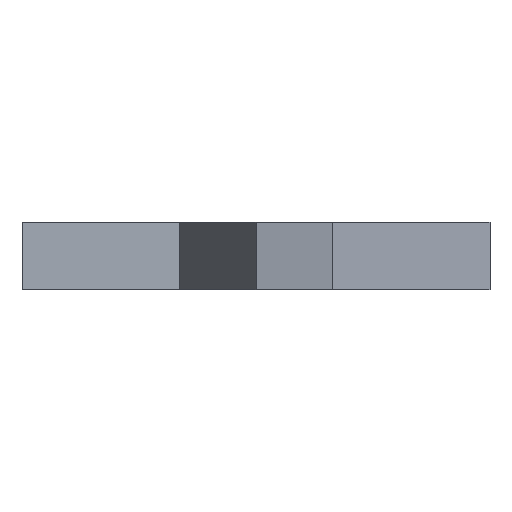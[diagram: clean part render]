
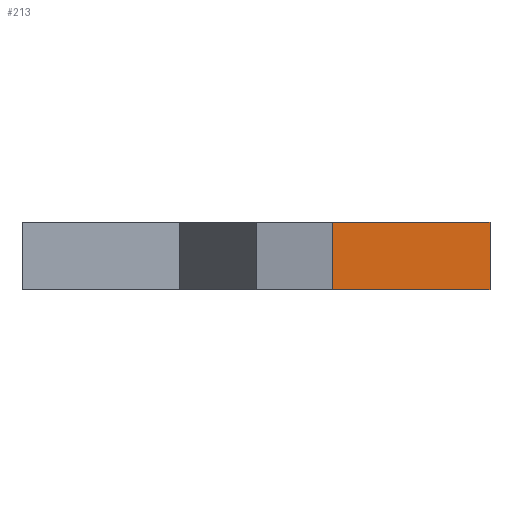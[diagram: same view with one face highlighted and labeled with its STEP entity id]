
A CAD part, front view. The second image highlights one B-rep face of the part: STEP entity #213.
In plain terms, the highlighted planar face has unit normal (-0.015, -1, 0).
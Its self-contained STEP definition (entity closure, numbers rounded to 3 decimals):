
#32 = PLANE('',#33);
#33 = AXIS2_PLACEMENT_3D('',#34,#35,#36);
#34 = CARTESIAN_POINT('',(0.,-55.1,0.));
#35 = DIRECTION('',(-0.874,0.487,0.));
#36 = DIRECTION('',(0.487,0.874,0.));
#57 = VERTEX_POINT('',#58);
#58 = CARTESIAN_POINT('',(15.625,-27.063,13.83));
#72 = PLANE('',#73);
#73 = AXIS2_PLACEMENT_3D('',#74,#75,#76);
#74 = CARTESIAN_POINT('',(0.,0.,13.83));
#75 = DIRECTION('',(0.,0.,1.));
#76 = DIRECTION('',(1.,0.,-0.));
#84 = EDGE_CURVE('',#85,#57,#87,.T.);
#85 = VERTEX_POINT('',#86);
#86 = CARTESIAN_POINT('',(15.625,-27.063,0.));
#87 = SURFACE_CURVE('',#88,(#92,#99),.PCURVE_S1.);
#88 = LINE('',#89,#90);
#89 = CARTESIAN_POINT('',(15.625,-27.063,0.));
#90 = VECTOR('',#91,1.);
#91 = DIRECTION('',(0.,0.,1.));
#92 = PCURVE('',#32,#93);
#93 = DEFINITIONAL_REPRESENTATION('',(#94),#98);
#94 = LINE('',#95,#96);
#95 = CARTESIAN_POINT('',(32.097,0.));
#96 = VECTOR('',#97,1.);
#97 = DIRECTION('',(0.,-1.));
#98 = ( GEOMETRIC_REPRESENTATION_CONTEXT(2) 
PARAMETRIC_REPRESENTATION_CONTEXT() REPRESENTATION_CONTEXT('2D SPACE',''
  ) );
#99 = PCURVE('',#100,#105);
#100 = PLANE('',#101);
#101 = AXIS2_PLACEMENT_3D('',#102,#103,#104);
#102 = CARTESIAN_POINT('',(15.625,-27.063,0.));
#103 = DIRECTION('',(0.015,1.,-0.));
#104 = DIRECTION('',(1.,-0.015,0.));
#105 = DEFINITIONAL_REPRESENTATION('',(#106),#110);
#106 = LINE('',#107,#108);
#107 = CARTESIAN_POINT('',(0.,0.));
#108 = VECTOR('',#109,1.);
#109 = DIRECTION('',(0.,-1.));
#110 = ( GEOMETRIC_REPRESENTATION_CONTEXT(2) 
PARAMETRIC_REPRESENTATION_CONTEXT() REPRESENTATION_CONTEXT('2D SPACE',''
  ) );
#126 = PLANE('',#127);
#127 = AXIS2_PLACEMENT_3D('',#128,#129,#130);
#128 = CARTESIAN_POINT('',(0.,0.,0.));
#129 = DIRECTION('',(0.,0.,1.));
#130 = DIRECTION('',(1.,0.,-0.));
#213 = ADVANCED_FACE('',(#214),#100,.F.);
#214 = FACE_BOUND('',#215,.F.);
#215 = EDGE_LOOP('',(#216,#217,#240,#268));
#216 = ORIENTED_EDGE('',*,*,#84,.T.);
#217 = ORIENTED_EDGE('',*,*,#218,.T.);
#218 = EDGE_CURVE('',#57,#219,#221,.T.);
#219 = VERTEX_POINT('',#220);
#220 = CARTESIAN_POINT('',(47.718,-27.55,13.83));
#221 = SURFACE_CURVE('',#222,(#226,#233),.PCURVE_S1.);
#222 = LINE('',#223,#224);
#223 = CARTESIAN_POINT('',(15.625,-27.063,13.83));
#224 = VECTOR('',#225,1.);
#225 = DIRECTION('',(1.,-0.015,0.));
#226 = PCURVE('',#100,#227);
#227 = DEFINITIONAL_REPRESENTATION('',(#228),#232);
#228 = LINE('',#229,#230);
#229 = CARTESIAN_POINT('',(0.,-13.83));
#230 = VECTOR('',#231,1.);
#231 = DIRECTION('',(1.,0.));
#232 = ( GEOMETRIC_REPRESENTATION_CONTEXT(2) 
PARAMETRIC_REPRESENTATION_CONTEXT() REPRESENTATION_CONTEXT('2D SPACE',''
  ) );
#233 = PCURVE('',#72,#234);
#234 = DEFINITIONAL_REPRESENTATION('',(#235),#239);
#235 = LINE('',#236,#237);
#236 = CARTESIAN_POINT('',(15.625,-27.063));
#237 = VECTOR('',#238,1.);
#238 = DIRECTION('',(1.,-0.015));
#239 = ( GEOMETRIC_REPRESENTATION_CONTEXT(2) 
PARAMETRIC_REPRESENTATION_CONTEXT() REPRESENTATION_CONTEXT('2D SPACE',''
  ) );
#240 = ORIENTED_EDGE('',*,*,#241,.F.);
#241 = EDGE_CURVE('',#242,#219,#244,.T.);
#242 = VERTEX_POINT('',#243);
#243 = CARTESIAN_POINT('',(47.718,-27.55,0.));
#244 = SURFACE_CURVE('',#245,(#249,#256),.PCURVE_S1.);
#245 = LINE('',#246,#247);
#246 = CARTESIAN_POINT('',(47.718,-27.55,0.));
#247 = VECTOR('',#248,1.);
#248 = DIRECTION('',(0.,0.,1.));
#249 = PCURVE('',#100,#250);
#250 = DEFINITIONAL_REPRESENTATION('',(#251),#255);
#251 = LINE('',#252,#253);
#252 = CARTESIAN_POINT('',(32.097,0.));
#253 = VECTOR('',#254,1.);
#254 = DIRECTION('',(0.,-1.));
#255 = ( GEOMETRIC_REPRESENTATION_CONTEXT(2) 
PARAMETRIC_REPRESENTATION_CONTEXT() REPRESENTATION_CONTEXT('2D SPACE',''
  ) );
#256 = PCURVE('',#257,#262);
#257 = PLANE('',#258);
#258 = AXIS2_PLACEMENT_3D('',#259,#260,#261);
#259 = CARTESIAN_POINT('',(47.718,-27.55,0.));
#260 = DIRECTION('',(-0.858,-0.513,0.));
#261 = DIRECTION('',(-0.513,0.858,0.));
#262 = DEFINITIONAL_REPRESENTATION('',(#263),#267);
#263 = LINE('',#264,#265);
#264 = CARTESIAN_POINT('',(0.,0.));
#265 = VECTOR('',#266,1.);
#266 = DIRECTION('',(0.,-1.));
#267 = ( GEOMETRIC_REPRESENTATION_CONTEXT(2) 
PARAMETRIC_REPRESENTATION_CONTEXT() REPRESENTATION_CONTEXT('2D SPACE',''
  ) );
#268 = ORIENTED_EDGE('',*,*,#269,.F.);
#269 = EDGE_CURVE('',#85,#242,#270,.T.);
#270 = SURFACE_CURVE('',#271,(#275,#282),.PCURVE_S1.);
#271 = LINE('',#272,#273);
#272 = CARTESIAN_POINT('',(15.625,-27.063,0.));
#273 = VECTOR('',#274,1.);
#274 = DIRECTION('',(1.,-0.015,0.));
#275 = PCURVE('',#100,#276);
#276 = DEFINITIONAL_REPRESENTATION('',(#277),#281);
#277 = LINE('',#278,#279);
#278 = CARTESIAN_POINT('',(0.,0.));
#279 = VECTOR('',#280,1.);
#280 = DIRECTION('',(1.,0.));
#281 = ( GEOMETRIC_REPRESENTATION_CONTEXT(2) 
PARAMETRIC_REPRESENTATION_CONTEXT() REPRESENTATION_CONTEXT('2D SPACE',''
  ) );
#282 = PCURVE('',#126,#283);
#283 = DEFINITIONAL_REPRESENTATION('',(#284),#288);
#284 = LINE('',#285,#286);
#285 = CARTESIAN_POINT('',(15.625,-27.063));
#286 = VECTOR('',#287,1.);
#287 = DIRECTION('',(1.,-0.015));
#288 = ( GEOMETRIC_REPRESENTATION_CONTEXT(2) 
PARAMETRIC_REPRESENTATION_CONTEXT() REPRESENTATION_CONTEXT('2D SPACE',''
  ) );
